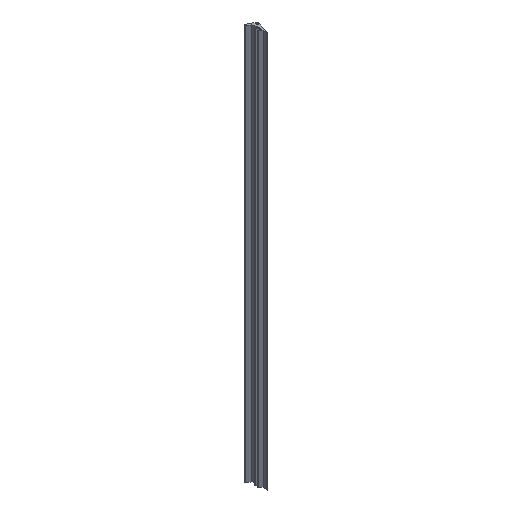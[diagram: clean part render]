
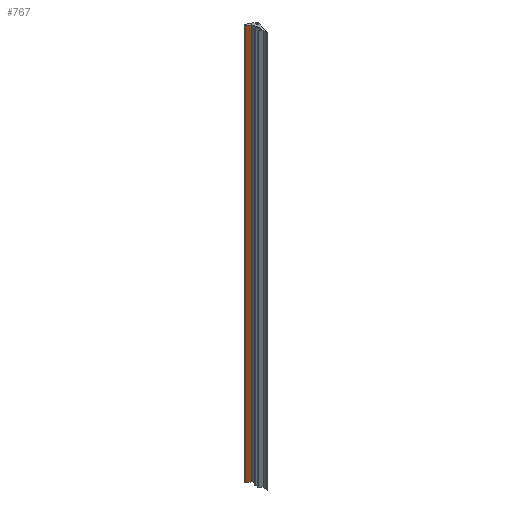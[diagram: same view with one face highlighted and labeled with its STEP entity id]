
A CAD part, isometric view. The second image highlights one B-rep face of the part: STEP entity #767.
In plain terms, the highlighted planar face has unit normal (-0.514, -0.858, 0).
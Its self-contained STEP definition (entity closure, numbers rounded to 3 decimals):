
#6 = FACE_OUTER_BOUND ( 'NONE', #460, .T. ) ;
#9 = CARTESIAN_POINT ( 'NONE',  ( -0.953, 3.001, 150. ) ) ;
#38 = VECTOR ( 'NONE', #372, 1000. ) ;
#43 = ORIENTED_EDGE ( 'NONE', *, *, #534, .F. ) ;
#150 = AXIS2_PLACEMENT_3D ( 'NONE', #976, #868, #763 ) ;
#193 = VERTEX_POINT ( 'NONE', #9 ) ;
#206 = ORIENTED_EDGE ( 'NONE', *, *, #362, .T. ) ;
#246 = DIRECTION ( 'NONE',  ( 0., 0., -1. ) ) ;
#304 = VECTOR ( 'NONE', #246, 1000. ) ;
#348 = ORIENTED_EDGE ( 'NONE', *, *, #791, .T. ) ;
#355 = CARTESIAN_POINT ( 'NONE',  ( -3.782, 4.696, 150. ) ) ;
#360 = PLANE ( 'NONE',  #150 ) ;
#362 = EDGE_CURVE ( 'NONE', #729, #753, #465, .T. ) ;
#372 = DIRECTION ( 'NONE',  ( 0.858, -0.514, 0. ) ) ;
#431 = EDGE_CURVE ( 'NONE', #593, #193, #811, .T. ) ;
#460 = EDGE_LOOP ( 'NONE', ( #348, #933, #43, #206 ) ) ;
#465 = LINE ( 'NONE', #355, #304 ) ;
#479 = CARTESIAN_POINT ( 'NONE',  ( -0.78, 2.897, 150. ) ) ;
#534 = EDGE_CURVE ( 'NONE', #729, #193, #618, .T. ) ;
#573 = VECTOR ( 'NONE', #607, 1000. ) ;
#593 = VERTEX_POINT ( 'NONE', #751 ) ;
#607 = DIRECTION ( 'NONE',  ( 0., 0., 1. ) ) ;
#618 = LINE ( 'NONE', #479, #38 ) ;
#636 = DIRECTION ( 'NONE',  ( 0.858, -0.514, 0. ) ) ;
#712 = CARTESIAN_POINT ( 'NONE',  ( -3.782, 4.696, 150. ) ) ;
#713 = CARTESIAN_POINT ( 'NONE',  ( -0.953, 3.001, 150. ) ) ;
#729 = VERTEX_POINT ( 'NONE', #712 ) ;
#739 = CARTESIAN_POINT ( 'NONE',  ( -0.78, 2.897, -150. ) ) ;
#751 = CARTESIAN_POINT ( 'NONE',  ( -0.953, 3.001, -150. ) ) ;
#753 = VERTEX_POINT ( 'NONE', #1002 ) ;
#763 = DIRECTION ( 'NONE',  ( -0.858, 0.514, 0. ) ) ;
#767 = ADVANCED_FACE ( 'NONE', ( #6 ), #360, .F. ) ;
#791 = EDGE_CURVE ( 'NONE', #753, #593, #950, .T. ) ;
#811 = LINE ( 'NONE', #713, #573 ) ;
#868 = DIRECTION ( 'NONE',  ( 0.514, 0.858, 0. ) ) ;
#897 = VECTOR ( 'NONE', #636, 1000. ) ;
#933 = ORIENTED_EDGE ( 'NONE', *, *, #431, .T. ) ;
#950 = LINE ( 'NONE', #739, #897 ) ;
#976 = CARTESIAN_POINT ( 'NONE',  ( -0.78, 2.897, 150. ) ) ;
#1002 = CARTESIAN_POINT ( 'NONE',  ( -3.782, 4.696, -150. ) ) ;
